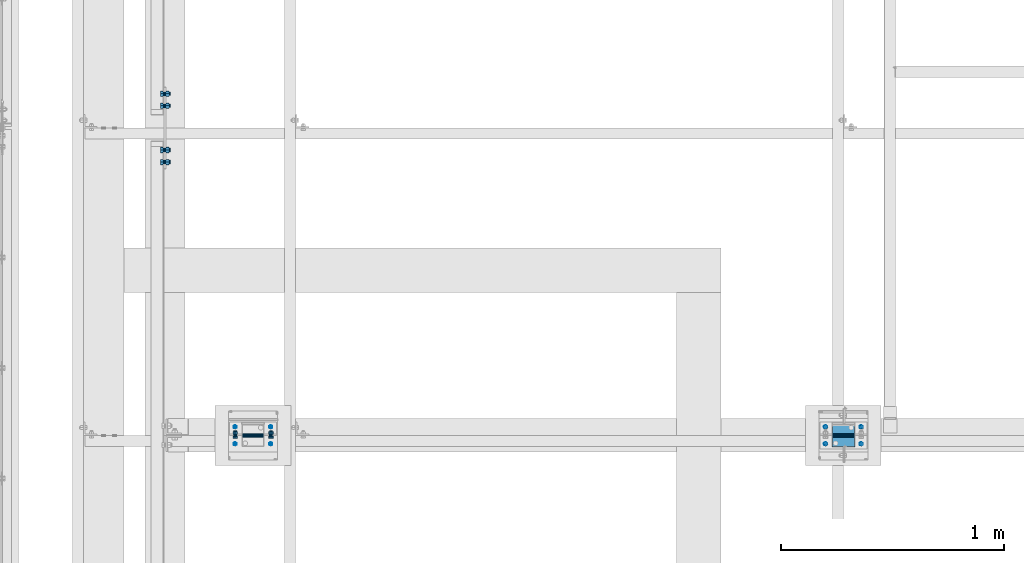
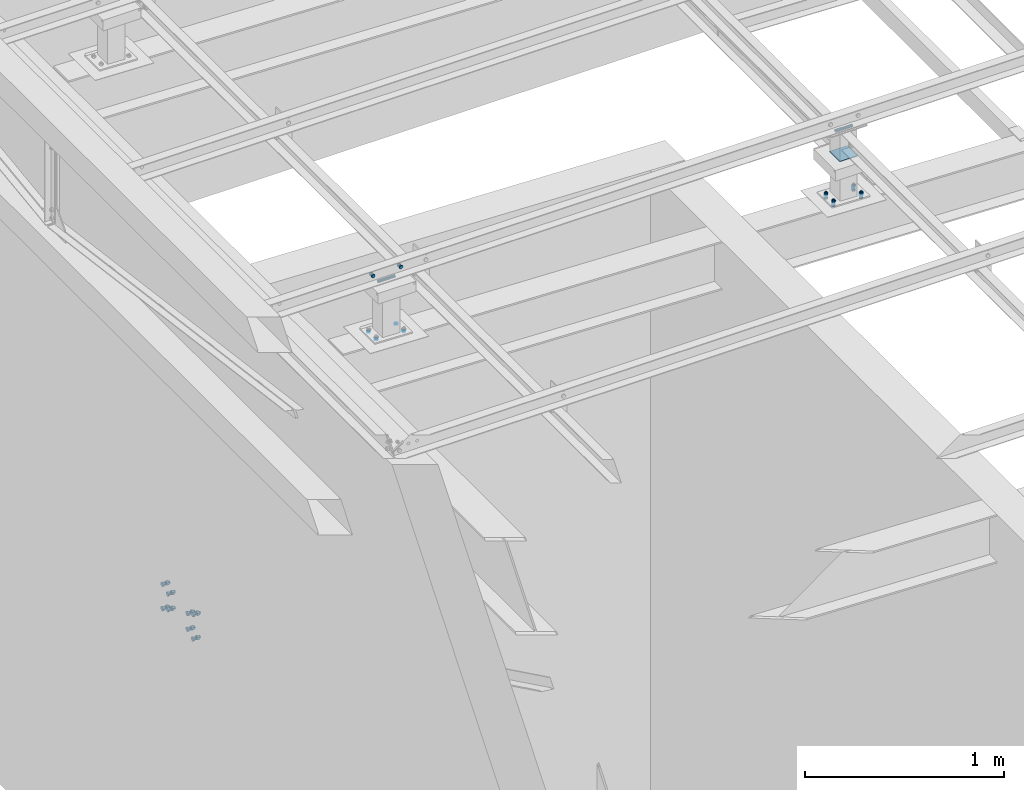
# One storey, part 186 of 3134: 11 mechanical fasteners, 8 elements without a shape of their own.
"""IFC2X3 building model written with IfcOpenShell, lengths in millimetres."""

from ifc_helpers import new_model, si_unit, frame, origin_with_axes, place, context, subcontext, project, spatial, faceted_brep, source, transform, mapped, material, type_object, element, aggregate, save


model = new_model("IFC2X3")

# Units and contexts
model_context = context("Model", 3, precision=1e-05, world=origin_with_axes())
body_context = subcontext(model_context, "Body", "Model", "MODEL_VIEW")
ifc_project = project(units=[si_unit("LENGTHUNIT", "METRE", prefix="MILLI"), si_unit("AREAUNIT", "SQUARE_METRE"), si_unit("VOLUMEUNIT", "CUBIC_METRE"), si_unit("MASSUNIT", "GRAM", prefix="KILO"), si_unit("TIMEUNIT", "SECOND"), si_unit("PLANEANGLEUNIT", "RADIAN"), si_unit("SOLIDANGLEUNIT", "STERADIAN"), si_unit("THERMODYNAMICTEMPERATUREUNIT", "DEGREE_CELSIUS"), si_unit("LUMINOUSINTENSITYUNIT", "LUMEN")], contexts=[model_context])

# Site, building, storey
site_placement = place(None, origin_with_axes())
site = spatial("IfcSite", under=ifc_project, at=site_placement, CompositionType="ELEMENT")
building_placement = place(site_placement, origin_with_axes())
building = spatial("IfcBuilding", under=site, at=building_placement, Name="Undefined", CompositionType="ELEMENT")
storey_placement = place(building_placement, origin_with_axes())
storey = spatial("IfcBuildingStorey", under=building, at=storey_placement, Name="Undefined", CompositionType="ELEMENT", Elevation=0.0)

# Assembly, mechanical fastener
assembly_1_placement = place(storey_placement, origin_with_axes())
assembly_1 = element("IfcElementAssembly", 1, at=assembly_1_placement, inside=storey, AssemblyPlace="NOTDEFINED", PredefinedType="RIGID_FRAME")
ifc_material_1 = material(Name="8.8")
mechanical_fastener_type = type_object("IfcMechanicalFastenerType", Name="Bolt assembly")
shared_shape_1 = source(origin_with_axes(), body_context, "Body", "Brep", [
    faceted_brep([(13.856406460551, -20.0, 0.0), (6.92820323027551, -20.0, 12.0), (-6.92820323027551, -20.0, 12.0), (-13.856406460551, -20.0, 1.69692038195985e-15), (-6.92820323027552, -20.0, -12.0), (6.9282032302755, -20.0, -12.0), (6.9282032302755, -10.0, -12.0), (-6.92820323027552, -10.0, -12.0), (-13.856406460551, -10.0, 1.69692038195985e-15), (-6.92820323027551, -10.0, 12.0), (6.92820323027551, -10.0, 12.0), (13.856406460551, -10.0, 0.0), (8.0, -10.0, 0.0), (6.92820323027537, -10.0, 4.00000000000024), (3.99999999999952, -10.0, 6.92820323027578), (-8.29068785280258e-13, -10.0, 8.0), (-4.00000000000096, -10.0, 6.92820323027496), (-6.9282032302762, -10.0, 3.99999999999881), (-8.0, -10.0, -1.65813757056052e-12), (-6.92820323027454, -10.0, -4.00000000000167), (-3.99999999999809, -10.0, -6.92820323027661), (2.47832457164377e-12, -10.0, -8.0), (4.00000000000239, -10.0, -6.92820323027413), (6.92820323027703, -10.0, -3.99999999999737), (6.92820323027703, 25.0, -3.99999999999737), (4.00000000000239, 25.0, -6.92820323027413), (2.47832457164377e-12, 25.0, -8.0), (-3.99999999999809, 25.0, -6.92820323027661), (-6.92820323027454, 25.0, -4.00000000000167), (-8.0, 25.0, -1.65813757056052e-12), (-6.9282032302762, 25.0, 3.99999999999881), (-4.00000000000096, 25.0, 6.92820323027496), (-8.29068785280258e-13, 25.0, 8.0), (3.99999999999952, 25.0, 6.92820323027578), (6.92820323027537, 25.0, 4.00000000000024), (8.0, 25.0, 0.0), (13.856406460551, 3.99999999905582, 0.0), (6.92820323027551, 3.99999999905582, 12.0), (-6.92820323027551, 3.99999999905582, 12.0), (-13.856406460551, 3.99999999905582, 1.69692038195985e-15), (-6.92820323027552, 3.99999999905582, -12.0), (6.9282032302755, 3.99999999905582, -12.0), (6.9282032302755, 16.9999999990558, -12.0), (-6.92820323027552, 16.9999999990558, -12.0), (-13.856406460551, 16.9999999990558, 1.69692038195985e-15), (-6.92820323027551, 16.9999999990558, 12.0), (6.92820323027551, 16.9999999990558, 12.0), (13.856406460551, 16.9999999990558, 0.0)], [[[0, 1, 2, 3, 4, 5]], [[6, 7, 8, 9, 10, 11]], [[0, 11, 10, 1]], [[1, 10, 9, 2]], [[2, 9, 8, 3]], [[3, 8, 7, 4]], [[4, 7, 6, 5]], [[5, 6, 11, 0]], [[12, 13, 14, 15, 16, 17, 18, 19, 20, 21, 22, 23]], [[24, 25, 26, 27, 28, 29, 30, 31, 32, 33, 34, 35]], [[12, 35, 34, 13]], [[13, 34, 33, 14]], [[14, 33, 32, 15]], [[15, 32, 31, 16]], [[16, 31, 30, 17]], [[17, 30, 29, 18]], [[18, 29, 28, 19]], [[19, 28, 27, 20]], [[20, 27, 26, 21]], [[21, 26, 25, 22]], [[22, 25, 24, 23]], [[23, 24, 35, 12]], [[36, 37, 38, 39, 40, 41]], [[42, 43, 44, 45, 46, 47]], [[36, 47, 46, 37]], [[37, 46, 45, 38]], [[38, 45, 44, 39]], [[39, 44, 43, 40]], [[40, 43, 42, 41]], [[41, 42, 47, 36]]]),
    faceted_brep([(9.0, -4.10000000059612, 0.0), (7.79422863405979, -4.10000000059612, 4.50000000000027), (4.49999999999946, -4.10000000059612, 7.79422863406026), (-9.3270238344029e-13, -4.10000000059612, 9.0), (-4.50000000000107, -4.10000000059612, 7.79422863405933), (-7.79422863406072, -4.10000000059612, 4.49999999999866), (-9.0, -4.10000000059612, -1.86540476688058e-12), (-7.79422863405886, -4.10000000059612, -4.50000000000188), (-4.49999999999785, -4.10000000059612, -7.79422863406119), (2.78811514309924e-12, -4.10000000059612, -9.0), (4.50000000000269, -4.10000000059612, -7.7942286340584), (7.79422863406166, -4.10000000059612, -4.49999999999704), (7.79422863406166, 4.00000375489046, -4.49999999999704), (4.50000000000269, 4.00000375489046, -7.7942286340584), (2.78811514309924e-12, 4.00000375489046, -9.0), (-4.49999999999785, 4.00000375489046, -7.79422863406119), (-7.79422863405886, 4.00000375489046, -4.50000000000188), (-9.0, 4.00000375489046, -1.86540476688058e-12), (-7.79422863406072, 4.00000375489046, 4.49999999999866), (-4.50000000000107, 4.00000375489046, 7.79422863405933), (-9.3270238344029e-13, 4.00000375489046, 9.0), (4.49999999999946, 4.00000375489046, 7.79422863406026), (7.79422863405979, 4.00000375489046, 4.50000000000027), (9.0, 4.00000375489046, 0.0), (9.0, -9.89999997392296, 0.0), (7.79422863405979, -9.89999997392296, 4.50000000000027), (4.49999999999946, -9.89999997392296, 7.79422863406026), (-9.3270238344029e-13, -9.89999997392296, 9.0), (-4.50000000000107, -9.89999997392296, 7.79422863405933), (-7.79422863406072, -9.89999997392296, 4.49999999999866), (-9.0, -9.89999997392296, -1.86540476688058e-12), (-7.79422863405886, -9.89999997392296, -4.50000000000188), (-4.49999999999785, -9.89999997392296, -7.79422863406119), (2.78811514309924e-12, -9.89999997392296, -9.0), (4.50000000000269, -9.89999997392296, -7.7942286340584), (7.79422863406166, -9.89999997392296, -4.49999999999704), (7.79422863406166, -3.9, -4.49999999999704), (4.50000000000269, -3.9, -7.7942286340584), (2.78811514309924e-12, -3.9, -9.0), (-4.49999999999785, -3.9, -7.79422863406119), (-7.79422863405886, -3.9, -4.50000000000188), (-9.0, -3.9, -1.86540476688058e-12), (-7.79422863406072, -3.9, 4.49999999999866), (-4.50000000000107, -3.9, 7.79422863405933), (-9.3270238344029e-13, -3.9, 9.0), (4.49999999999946, -3.9, 7.79422863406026), (7.79422863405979, -3.9, 4.50000000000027), (9.0, -3.9, 0.0)], [[[0, 1, 2, 3, 4, 5, 6, 7, 8, 9, 10, 11]], [[12, 13, 14, 15, 16, 17, 18, 19, 20, 21, 22, 23]], [[0, 23, 22, 1]], [[1, 22, 21, 2]], [[2, 21, 20, 3]], [[3, 20, 19, 4]], [[4, 19, 18, 5]], [[5, 18, 17, 6]], [[6, 17, 16, 7]], [[7, 16, 15, 8]], [[8, 15, 14, 9]], [[9, 14, 13, 10]], [[10, 13, 12, 11]], [[11, 12, 23, 0]], [[24, 25, 26, 27, 28, 29, 30, 31, 32, 33, 34, 35]], [[36, 37, 38, 39, 40, 41, 42, 43, 44, 45, 46, 47]], [[24, 47, 46, 25]], [[25, 46, 45, 26]], [[26, 45, 44, 27]], [[27, 44, 43, 28]], [[28, 43, 42, 29]], [[29, 42, 41, 30]], [[30, 41, 40, 31]], [[31, 40, 39, 32]], [[32, 39, 38, 33]], [[33, 38, 37, 34]], [[34, 37, 36, 35]], [[35, 36, 47, 24]]]),
])
mechanical_fastener_1_placement = place(assembly_1_placement, frame((0.0, 44288.6515411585, 1571.74047053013), z_axis=(0.0, -0.438723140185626, 0.898622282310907), x_axis=(0.0, -0.898622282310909, -0.438723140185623)))
mechanical_fastener_1 = element("IfcMechanicalFastener", 2, at=mechanical_fastener_1_placement, type_object=mechanical_fastener_type, material=ifc_material_1, Name="Bolt assembly", NominalDiameter=16.0, NominalLength=35.0, context=body_context, shape_type="MappedRepresentation", body=[
    mapped(shared_shape_1, transform((0.0, 0.0, 0.0))),
    mapped(shared_shape_1, transform((59.9999999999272, 0.0, 5.40239852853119e-10))),
])
aggregate(assembly_1, [mechanical_fastener_1])

assembly_2_placement = place(storey_placement, origin_with_axes())
assembly_2 = element("IfcElementAssembly", 3, at=assembly_2_placement, inside=storey, AssemblyPlace="NOTDEFINED", PredefinedType="RIGID_FRAME")
mechanical_fastener_2_placement = place(assembly_2_placement, frame((0.0, 44288.6515567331, 1668.25956137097), z_axis=(0.0, 0.438723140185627, 0.898622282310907), x_axis=(0.0, -0.898622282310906, 0.438723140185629)))
mechanical_fastener_2 = element("IfcMechanicalFastener", 4, at=mechanical_fastener_2_placement, type_object=mechanical_fastener_type, material=ifc_material_1, Name="Bolt assembly", NominalDiameter=16.0, NominalLength=35.0, context=body_context, shape_type="MappedRepresentation", body=[
    mapped(shared_shape_1, transform((0.0, 0.0, 0.0))),
    mapped(shared_shape_1, transform((59.9999999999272, 0.0, 5.40239852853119e-10))),
])
aggregate(assembly_2, [mechanical_fastener_2])

assembly_3_placement = place(storey_placement, origin_with_axes())
assembly_3 = element("IfcElementAssembly", 5, at=assembly_3_placement, inside=storey, AssemblyPlace="NOTDEFINED", PredefinedType="RIGID_FRAME")
mechanical_fastener_3_placement = place(assembly_3_placement, frame((0.0, 44540.2661591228, 1545.41690472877), z_axis=(0.0, 0.438723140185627, 0.898622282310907), x_axis=(0.0, -0.898622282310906, 0.438723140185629)))
mechanical_fastener_3 = element("IfcMechanicalFastener", 6, at=mechanical_fastener_3_placement, type_object=mechanical_fastener_type, material=ifc_material_1, Name="Bolt assembly", NominalDiameter=16.0, NominalLength=35.0, context=body_context, shape_type="MappedRepresentation", body=[
    mapped(shared_shape_1, transform((0.0, 0.0, 0.0))),
    mapped(shared_shape_1, transform((59.9999999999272, 0.0, 5.40239852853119e-10))),
])
aggregate(assembly_3, [mechanical_fastener_3])

assembly_4_placement = place(storey_placement, origin_with_axes())
assembly_4 = element("IfcElementAssembly", 7, at=assembly_4_placement, inside=storey, AssemblyPlace="NOTDEFINED", PredefinedType="RIGID_FRAME")
mechanical_fastener_4_placement = place(assembly_4_placement, frame((0.0, 44540.2661435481, 1694.58312717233), z_axis=(0.0, -0.438723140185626, 0.898622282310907), x_axis=(0.0, -0.898622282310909, -0.438723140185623)))
mechanical_fastener_4 = element("IfcMechanicalFastener", 8, at=mechanical_fastener_4_placement, type_object=mechanical_fastener_type, material=ifc_material_1, Name="Bolt assembly", NominalDiameter=16.0, NominalLength=35.0, context=body_context, shape_type="MappedRepresentation", body=[
    mapped(shared_shape_1, transform((0.0, 0.0, 0.0))),
    mapped(shared_shape_1, transform((59.9999999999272, 0.0, 5.40239852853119e-10))),
])
aggregate(assembly_4, [mechanical_fastener_4])

assembly_5_placement = place(storey_placement, origin_with_axes())
assembly_5 = element("IfcElementAssembly", 9, at=assembly_5_placement, inside=storey, AssemblyPlace="NOTDEFINED", PredefinedType="RIGID_FRAME")
shared_shape_2 = source(origin_with_axes(), body_context, "Body", "Brep", [
    faceted_brep([(10.9696551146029, -4.1972538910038, 0.0), (5.48482755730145, -4.1972538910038, 9.5), (-5.48482755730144, -4.1972538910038, 9.5), (-10.9696551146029, -4.1972538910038, 1.34339530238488e-15), (-5.48482755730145, -4.1972538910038, -9.5), (5.48482755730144, -4.1972538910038, -9.50000000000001), (5.48482755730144, 3.8027461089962, -9.50000000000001), (-5.48482755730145, 3.8027461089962, -9.5), (-10.9696551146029, 3.8027461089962, 1.34339530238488e-15), (-5.48482755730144, 3.8027461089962, 9.5), (5.48482755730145, 3.8027461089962, 9.5), (10.9696551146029, 3.8027461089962, 0.0), (6.0, 3.8027461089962, 0.0), (5.19615242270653, 3.8027461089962, 3.00000000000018), (2.99999999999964, 3.8027461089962, 5.19615242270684), (-6.21801588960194e-13, 3.8027461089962, 6.0), (-3.00000000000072, 3.8027461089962, 5.19615242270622), (-5.19615242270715, 3.8027461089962, 2.9999999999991), (-6.0, 3.8027461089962, -1.24360317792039e-12), (-5.19615242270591, 3.8027461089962, -3.00000000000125), (-2.99999999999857, 3.8027461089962, -5.19615242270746), (1.85874342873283e-12, 3.8027461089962, -6.0), (3.00000000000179, 3.8027461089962, -5.1961524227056), (5.19615242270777, 3.8027461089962, -2.99999999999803), (5.19615242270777, 38.8027461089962, -2.99999999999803), (3.00000000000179, 38.8027461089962, -5.1961524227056), (1.85874342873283e-12, 38.8027461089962, -6.0), (-2.99999999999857, 38.8027461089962, -5.19615242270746), (-5.19615242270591, 38.8027461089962, -3.00000000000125), (-6.0, 38.8027461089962, -1.24360317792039e-12), (-5.19615242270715, 38.8027461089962, 2.9999999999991), (-3.00000000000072, 38.8027461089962, 5.19615242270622), (-6.21801588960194e-13, 38.8027461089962, 6.0), (2.99999999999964, 38.8027461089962, 5.19615242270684), (5.19615242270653, 38.8027461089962, 3.00000000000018), (6.0, 38.8027461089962, 0.0), (10.9696551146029, 23.0139082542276, 0.0), (5.48482755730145, 23.0139082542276, 9.5), (-5.48482755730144, 23.0139082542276, 9.5), (-10.9696551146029, 23.0139082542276, 1.34339530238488e-15), (-5.48482755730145, 23.0139082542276, -9.5), (5.48482755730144, 23.0139082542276, -9.50000000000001), (5.48482755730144, 33.0139082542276, -9.50000000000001), (-5.48482755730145, 33.0139082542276, -9.5), (-10.9696551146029, 33.0139082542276, 1.34339530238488e-15), (-5.48482755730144, 33.0139082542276, 9.5), (5.48482755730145, 33.0139082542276, 9.5), (10.9696551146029, 33.0139082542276, 0.0)], [[[0, 1, 2, 3, 4, 5]], [[6, 7, 8, 9, 10, 11]], [[0, 11, 10, 1]], [[1, 10, 9, 2]], [[2, 9, 8, 3]], [[3, 8, 7, 4]], [[4, 7, 6, 5]], [[5, 6, 11, 0]], [[12, 13, 14, 15, 16, 17, 18, 19, 20, 21, 22, 23]], [[24, 25, 26, 27, 28, 29, 30, 31, 32, 33, 34, 35]], [[12, 35, 34, 13]], [[13, 34, 33, 14]], [[14, 33, 32, 15]], [[15, 32, 31, 16]], [[16, 31, 30, 17]], [[17, 30, 29, 18]], [[18, 29, 28, 19]], [[19, 28, 27, 20]], [[20, 27, 26, 21]], [[21, 26, 25, 22]], [[22, 25, 24, 23]], [[23, 24, 35, 12]], [[36, 37, 38, 39, 40, 41]], [[42, 43, 44, 45, 46, 47]], [[36, 47, 46, 37]], [[37, 46, 45, 38]], [[38, 45, 44, 39]], [[39, 44, 43, 40]], [[40, 43, 42, 41]], [[41, 42, 47, 36]]]),
    faceted_brep([(7.0, 3.9027461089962, 0.0), (6.06217782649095, 3.9027461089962, 3.50000000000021), (3.49999999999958, 3.9027461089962, 6.06217782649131), (-7.25435187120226e-13, 3.9027461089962, 7.0), (-3.50000000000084, 3.9027461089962, 6.06217782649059), (-6.06217782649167, 3.9027461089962, 3.49999999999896), (-7.0, 3.9027461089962, -1.45087037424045e-12), (-6.06217782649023, 3.9027461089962, -3.50000000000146), (-3.49999999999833, 3.9027461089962, -6.06217782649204), (2.1685340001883e-12, 3.9027461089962, -7.0), (3.50000000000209, 3.9027461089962, -6.06217782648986), (6.0621778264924, 3.9027461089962, -3.4999999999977), (6.0621778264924, 13.1027459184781, -3.4999999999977), (3.50000000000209, 13.1027459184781, -6.06217782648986), (2.1685340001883e-12, 13.1027459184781, -7.0), (-3.49999999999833, 13.1027459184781, -6.06217782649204), (-6.06217782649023, 13.1027459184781, -3.50000000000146), (-7.0, 13.1027459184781, -1.45087037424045e-12), (-6.06217782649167, 13.1027459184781, 3.49999999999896), (-3.50000000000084, 13.1027459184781, 6.06217782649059), (-7.25435187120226e-13, 13.1027459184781, 7.0), (3.49999999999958, 13.1027459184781, 6.06217782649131), (6.06217782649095, 13.1027459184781, 3.50000000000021), (7.0, 13.1027459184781, 0.0), (7.0, 14.9139082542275, 0.0), (6.06217782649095, 14.9139082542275, 3.50000000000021), (3.49999999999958, 14.9139082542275, 6.06217782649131), (-7.25435187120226e-13, 14.9139082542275, 7.0), (-3.50000000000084, 14.9139082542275, 6.06217782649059), (-6.06217782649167, 14.9139082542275, 3.49999999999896), (-7.0, 14.9139082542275, -1.45087037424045e-12), (-6.06217782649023, 14.9139082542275, -3.50000000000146), (-3.49999999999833, 14.9139082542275, -6.06217782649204), (2.1685340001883e-12, 14.9139082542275, -7.0), (3.50000000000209, 14.9139082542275, -6.06217782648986), (6.0621778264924, 14.9139082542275, -3.4999999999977), (6.0621778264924, 23.0139082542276, -3.4999999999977), (3.50000000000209, 23.0139082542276, -6.06217782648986), (2.1685340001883e-12, 23.0139082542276, -7.0), (-3.49999999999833, 23.0139082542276, -6.06217782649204), (-6.06217782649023, 23.0139082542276, -3.50000000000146), (-7.0, 23.0139082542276, -1.45087037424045e-12), (-6.06217782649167, 23.0139082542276, 3.49999999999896), (-3.50000000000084, 23.0139082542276, 6.06217782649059), (-7.25435187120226e-13, 23.0139082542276, 7.0), (3.49999999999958, 23.0139082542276, 6.06217782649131), (6.06217782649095, 23.0139082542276, 3.50000000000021), (7.0, 23.0139082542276, 0.0)], [[[0, 1, 2, 3, 4, 5, 6, 7, 8, 9, 10, 11]], [[12, 13, 14, 15, 16, 17, 18, 19, 20, 21, 22, 23]], [[0, 23, 22, 1]], [[1, 22, 21, 2]], [[2, 21, 20, 3]], [[3, 20, 19, 4]], [[4, 19, 18, 5]], [[5, 18, 17, 6]], [[6, 17, 16, 7]], [[7, 16, 15, 8]], [[8, 15, 14, 9]], [[9, 14, 13, 10]], [[10, 13, 12, 11]], [[11, 12, 23, 0]], [[24, 25, 26, 27, 28, 29, 30, 31, 32, 33, 34, 35]], [[36, 37, 38, 39, 40, 41, 42, 43, 44, 45, 46, 47]], [[24, 47, 46, 25]], [[25, 46, 45, 26]], [[26, 45, 44, 27]], [[27, 44, 43, 28]], [[28, 43, 42, 29]], [[29, 42, 41, 30]], [[30, 41, 40, 31]], [[31, 40, 39, 32]], [[32, 39, 38, 33]], [[33, 38, 37, 34]], [[34, 37, 36, 35]], [[35, 36, 47, 24]]]),
])
mechanical_fastener_5_placement = place(assembly_5_placement, frame((3042.5231765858, 43046.3299999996, 3920.50000668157), z_axis=(-0.999387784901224, 0.0, 0.0349865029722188), x_axis=(0.0, -1.0, 0.0)))
mechanical_fastener_5 = element("IfcMechanicalFastener", 10, at=mechanical_fastener_5_placement, type_object=mechanical_fastener_type, material=ifc_material_1, Name="Bolt assembly", NominalDiameter=12.0, NominalLength=35.0, context=body_context, shape_type="MappedRepresentation", body=[
    mapped(shared_shape_2, transform((0.0, -5.32963895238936e-10, -79.9999999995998))),
    mapped(shared_shape_2, transform((76.0, -5.32963895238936e-10, -79.9999999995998))),
    mapped(shared_shape_2, transform((0.0, 5.3114490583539e-10, 79.9999999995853))),
    mapped(shared_shape_2, transform((76.0, 5.3114490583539e-10, 79.9999999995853))),
])

assembly_6_placement = place(storey_placement, origin_with_axes())
assembly_6 = element("IfcElementAssembly", 11, at=assembly_6_placement, inside=storey, AssemblyPlace="NOTDEFINED", PredefinedType="RIGID_FRAME")
shared_shape_3 = source(origin_with_axes(), body_context, "Body", "Brep", [
    faceted_brep([(7.0, 13.0000253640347, 0.0), (6.06217782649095, 13.0000253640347, 3.50000000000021), (3.49999999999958, 13.0000253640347, 6.06217782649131), (-7.25435187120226e-13, 13.0000253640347, 7.0), (-3.50000000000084, 13.0000253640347, 6.06217782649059), (-6.06217782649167, 13.0000253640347, 3.49999999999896), (-7.0, 13.0000253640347, -1.45087037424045e-12), (-6.06217782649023, 13.0000253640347, -3.50000000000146), (-3.49999999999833, 13.0000253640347, -6.06217782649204), (2.1685340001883e-12, 13.0000253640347, -7.0), (3.50000000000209, 13.0000253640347, -6.06217782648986), (6.0621778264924, 13.0000253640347, -3.4999999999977), (6.0621778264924, 15.0999999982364, -3.4999999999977), (3.50000000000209, 15.0999999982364, -6.06217782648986), (2.1685340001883e-12, 15.0999999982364, -7.0), (-3.49999999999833, 15.0999999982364, -6.06217782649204), (-6.06217782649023, 15.0999999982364, -3.50000000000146), (-7.0, 15.0999999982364, -1.45087037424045e-12), (-6.06217782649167, 15.0999999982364, 3.49999999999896), (-3.50000000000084, 15.0999999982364, 6.06217782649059), (-7.25435187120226e-13, 15.0999999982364, 7.0), (3.49999999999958, 15.0999999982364, 6.06217782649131), (6.06217782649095, 15.0999999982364, 3.50000000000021), (7.0, 15.0999999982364, 0.0)], [[[0, 1, 2, 3, 4, 5, 6, 7, 8, 9, 10, 11]], [[12, 13, 14, 15, 16, 17, 18, 19, 20, 21, 22, 23]], [[0, 23, 22, 1]], [[1, 22, 21, 2]], [[2, 21, 20, 3]], [[3, 20, 19, 4]], [[4, 19, 18, 5]], [[5, 18, 17, 6]], [[6, 17, 16, 7]], [[7, 16, 15, 8]], [[8, 15, 14, 9]], [[9, 14, 13, 10]], [[10, 13, 12, 11]], [[11, 12, 23, 0]]]),
])
mechanical_fastener_6_placement = place(assembly_6_placement, frame((3042.5231765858, 43046.3299999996, 3920.50000668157), z_axis=(-0.999387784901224, 0.0, 0.0349865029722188), x_axis=(0.0, -1.0, 0.0)))
mechanical_fastener_6 = element("IfcMechanicalFastener", 12, at=mechanical_fastener_6_placement, type_object=mechanical_fastener_type, material=ifc_material_1, Name="Bolt assembly", NominalDiameter=12.0, NominalLength=2.0, context=body_context, shape_type="MappedRepresentation", body=[
    mapped(shared_shape_3, transform((0.0, -5.32963895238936e-10, -79.9999999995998))),
    mapped(shared_shape_3, transform((76.0, -5.32963895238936e-10, -79.9999999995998))),
    mapped(shared_shape_3, transform((0.0, 5.3114490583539e-10, 79.9999999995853))),
    mapped(shared_shape_3, transform((76.0, 5.3114490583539e-10, 79.9999999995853))),
])
aggregate(assembly_6, [mechanical_fastener_6])

assembly_7_placement = place(storey_placement, origin_with_axes())
assembly_7 = element("IfcElementAssembly", 13, at=assembly_7_placement, inside=storey, AssemblyPlace="NOTDEFINED", PredefinedType="RIGID_FRAME")
mechanical_fastener_7_placement = place(assembly_7_placement, frame((394.193176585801, 43046.3299999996, 4013.19000668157), z_axis=(-0.999387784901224, 0.0, 0.0349865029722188), x_axis=(0.0, -1.0, 0.0)))
mechanical_fastener_7 = element("IfcMechanicalFastener", 14, at=mechanical_fastener_7_placement, type_object=mechanical_fastener_type, material=ifc_material_1, Name="Bolt assembly", NominalDiameter=12.0, NominalLength=2.0, context=body_context, shape_type="MappedRepresentation", body=[
    mapped(shared_shape_3, transform((0.0, -5.32963895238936e-10, -79.9999999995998))),
    mapped(shared_shape_3, transform((76.0, -5.32963895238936e-10, -79.9999999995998))),
    mapped(shared_shape_3, transform((0.0, 5.3114490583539e-10, 79.9999999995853))),
    mapped(shared_shape_3, transform((76.0, 5.3114490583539e-10, 79.9999999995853))),
])
aggregate(assembly_7, [mechanical_fastener_7])

assembly_8_placement = place(storey_placement, origin_with_axes())
assembly_8 = element("IfcElementAssembly", 15, at=assembly_8_placement, inside=storey, AssemblyPlace="NOTDEFINED", PredefinedType="RIGID_FRAME")
shared_shape_4 = source(origin_with_axes(), body_context, "Body", "Brep", [
    faceted_brep([(9.0, -50.0, 0.0), (7.79422863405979, -50.0, 4.50000000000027), (4.49999999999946, -50.0, 7.79422863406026), (-9.3270238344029e-13, -50.0, 9.0), (-4.50000000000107, -50.0, 7.79422863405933), (-7.79422863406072, -50.0, 4.49999999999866), (-9.0, -50.0, -1.86540476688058e-12), (-7.79422863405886, -50.0, -4.50000000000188), (-4.49999999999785, -50.0, -7.79422863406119), (2.78811514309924e-12, -50.0, -9.0), (4.50000000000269, -50.0, -7.7942286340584), (7.79422863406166, -50.0, -4.49999999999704), (7.79422863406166, 50.1, -4.49999999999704), (4.50000000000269, 50.1, -7.7942286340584), (2.78811514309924e-12, 50.1, -9.0), (-4.49999999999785, 50.1, -7.79422863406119), (-7.79422863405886, 50.1, -4.50000000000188), (-9.0, 50.1, -1.86540476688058e-12), (-7.79422863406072, 50.1, 4.49999999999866), (-4.50000000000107, 50.1, 7.79422863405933), (-9.3270238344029e-13, 50.1, 9.0), (4.49999999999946, 50.1, 7.79422863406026), (7.79422863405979, 50.1, 4.50000000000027), (9.0, 50.1, 0.0)], [[[0, 1, 2, 3, 4, 5, 6, 7, 8, 9, 10, 11]], [[12, 13, 14, 15, 16, 17, 18, 19, 20, 21, 22, 23]], [[0, 23, 22, 1]], [[1, 22, 21, 2]], [[2, 21, 20, 3]], [[3, 20, 19, 4]], [[4, 19, 18, 5]], [[5, 18, 17, 6]], [[6, 17, 16, 7]], [[7, 16, 15, 8]], [[8, 15, 14, 9]], [[9, 14, 13, 10]], [[10, 13, 12, 11]], [[11, 12, 23, 0]]]),
])
mechanical_fastener_8_placement = place(assembly_8_placement, frame((395.0, 43008.33, 4351.0), z_axis=(0.0, 1.0, 0.0), x_axis=(0.0, 0.0, 1.0)))
mechanical_fastener_8 = element("IfcMechanicalFastener", 16, at=mechanical_fastener_8_placement, type_object=mechanical_fastener_type, material=ifc_material_1, Name="Bolt assembly", NominalDiameter=16.0, NominalLength=100.0, context=body_context, shape_type="MappedRepresentation", body=[
    mapped(shared_shape_4, transform((0.0, 0.0, 0.0))),
])

# Mechanical fastener
mechanical_fastener_9_placement = place(assembly_5_placement, frame((3043.33, 43008.33, 4345.0), z_axis=(0.0, 1.0, 0.0), x_axis=(0.0, 0.0, 1.0)))
mechanical_fastener_9 = element("IfcMechanicalFastener", 17, at=mechanical_fastener_9_placement, type_object=mechanical_fastener_type, material=ifc_material_1, Name="Bolt assembly", NominalDiameter=16.0, NominalLength=100.0, context=body_context, shape_type="MappedRepresentation", body=[
    mapped(shared_shape_4, transform((0.0, 0.0, 0.0))),
])

ifc_material_2 = material(Name="6.8")
shared_shape_5 = source(origin_with_axes(), body_context, "Body", "Brep", [
    faceted_brep([(51.5, 1.36424205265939e-12, 50.0), (51.3858192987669, 1.36424205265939e-12, 50.5740251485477), (51.0606601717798, 1.36424205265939e-12, 51.0606601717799), (50.5740251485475, 1.36424205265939e-12, 51.385819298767), (-50.0000000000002, 1.36424205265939e-12, 51.5), (-50.7500000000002, 1.36424205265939e-12, 51.2990381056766), (-51.2990381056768, 1.36424205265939e-12, 50.7499999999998), (-51.5, 1.36424205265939e-12, 49.9999999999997), (-51.5, 1.36424205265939e-12, -50.0000000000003), (-51.2990381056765, 1.36424205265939e-12, -50.7500000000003), (-50.7499999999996, 1.36424205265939e-12, -51.2990381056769), (-49.9999999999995, 1.36424205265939e-12, -51.5), (50.0000000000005, 1.36424205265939e-12, -51.5), (50.7500000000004, 1.36424205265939e-12, -51.2990381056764), (51.2990381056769, 1.36424205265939e-12, -50.7499999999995), (51.5, 1.36424205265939e-12, -49.9999999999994), (51.5, 5.10000000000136, -49.9999999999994), (51.2990381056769, 5.10000000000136, -50.7499999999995), (50.7500000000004, 5.10000000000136, -51.2990381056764), (50.0000000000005, 5.10000000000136, -51.5), (-49.9999999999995, 5.10000000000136, -51.5), (-50.7499999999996, 5.10000000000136, -51.2990381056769), (-51.2990381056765, 5.10000000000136, -50.7500000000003), (-51.5, 5.10000000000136, -50.0000000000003), (-51.5, 5.10000000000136, 49.9999999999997), (-51.2990381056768, 5.10000000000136, 50.7499999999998), (-50.7500000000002, 5.10000000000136, 51.2990381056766), (-50.0000000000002, 5.10000000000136, 51.5), (50.5740251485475, 5.10000000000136, 51.385819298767), (51.0606601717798, 5.10000000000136, 51.0606601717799), (51.3858192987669, 5.10000000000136, 50.5740251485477), (51.5, 5.10000000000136, 50.0)], [[[0, 1, 2, 3, 4, 5, 6, 7, 8, 9, 10, 11, 12, 13, 14, 15]], [[16, 17, 18, 19, 20, 21, 22, 23, 24, 25, 26, 27, 28, 29, 30, 31]], [[0, 31, 30, 1]], [[1, 30, 29, 2]], [[2, 29, 28, 3]], [[3, 28, 27, 4]], [[4, 27, 26, 5]], [[5, 26, 25, 6]], [[6, 25, 24, 7]], [[7, 24, 23, 8]], [[8, 23, 22, 9]], [[9, 22, 21, 10]], [[10, 21, 20, 11]], [[11, 20, 19, 12]], [[12, 19, 18, 13]], [[13, 18, 17, 14]], [[14, 17, 16, 15]], [[15, 16, 31, 0]]]),
])
mechanical_fastener_10_placement = place(assembly_5_placement, frame((3043.33, 43008.33, 4190.29), z_axis=(0.0, -1.0, 0.0), x_axis=(-1.0, 0.0, 0.0)))
mechanical_fastener_10 = element("IfcMechanicalFastener", 18, at=mechanical_fastener_10_placement, type_object=mechanical_fastener_type, material=ifc_material_2, Name="Bolt assembly", NominalDiameter=10.0, NominalLength=5.0, context=body_context, shape_type="MappedRepresentation", body=[
    mapped(shared_shape_5, transform((0.0, 0.0, 0.0))),
])

aggregate(assembly_5, [mechanical_fastener_5, mechanical_fastener_10, mechanical_fastener_9])

shared_shape_6 = source(origin_with_axes(), body_context, "Body", "Brep", [
    faceted_brep([(10.9696551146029, -12.0, 0.0), (5.48482755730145, -12.0, 9.5), (-5.48482755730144, -12.0, 9.5), (-10.9696551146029, -12.0, 1.34339530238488e-15), (-5.48482755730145, -12.0, -9.5), (5.48482755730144, -12.0, -9.50000000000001), (5.48482755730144, -4.0, -9.50000000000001), (-5.48482755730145, -4.0, -9.5), (-10.9696551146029, -4.0, 1.34339530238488e-15), (-5.48482755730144, -4.0, 9.5), (5.48482755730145, -4.0, 9.5), (10.9696551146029, -4.0, 0.0), (6.0, -4.0, 0.0), (5.19615242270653, -4.0, 3.00000000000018), (2.99999999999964, -4.0, 5.19615242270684), (-6.21801588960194e-13, -4.0, 6.0), (-3.00000000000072, -4.0, 5.19615242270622), (-5.19615242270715, -4.0, 2.9999999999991), (-6.0, -4.0, -1.24360317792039e-12), (-5.19615242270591, -4.0, -3.00000000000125), (-2.99999999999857, -4.0, -5.19615242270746), (1.85874342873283e-12, -4.0, -6.0), (3.00000000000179, -4.0, -5.1961524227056), (5.19615242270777, -4.0, -2.99999999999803), (5.19615242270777, 21.0, -2.99999999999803), (3.00000000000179, 21.0, -5.1961524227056), (1.85874342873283e-12, 21.0, -6.0), (-2.99999999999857, 21.0, -5.19615242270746), (-5.19615242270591, 21.0, -3.00000000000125), (-6.0, 21.0, -1.24360317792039e-12), (-5.19615242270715, 21.0, 2.9999999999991), (-3.00000000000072, 21.0, 5.19615242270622), (-6.21801588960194e-13, 21.0, 6.0), (2.99999999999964, 21.0, 5.19615242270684), (5.19615242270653, 21.0, 3.00000000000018), (6.0, 21.0, 0.0), (10.9696551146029, 6.00000000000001, 0.0), (5.48482755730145, 6.00000000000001, 9.5), (-5.48482755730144, 6.00000000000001, 9.5), (-10.9696551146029, 6.00000000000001, 1.34339530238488e-15), (-5.48482755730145, 6.00000000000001, -9.5), (5.48482755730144, 6.00000000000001, -9.50000000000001), (5.48482755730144, 16.0, -9.50000000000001), (-5.48482755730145, 16.0, -9.5), (-10.9696551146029, 16.0, 1.34339530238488e-15), (-5.48482755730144, 16.0, 9.5), (5.48482755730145, 16.0, 9.5), (10.9696551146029, 16.0, 0.0)], [[[0, 1, 2, 3, 4, 5]], [[6, 7, 8, 9, 10, 11]], [[0, 11, 10, 1]], [[1, 10, 9, 2]], [[2, 9, 8, 3]], [[3, 8, 7, 4]], [[4, 7, 6, 5]], [[5, 6, 11, 0]], [[12, 13, 14, 15, 16, 17, 18, 19, 20, 21, 22, 23]], [[24, 25, 26, 27, 28, 29, 30, 31, 32, 33, 34, 35]], [[12, 35, 34, 13]], [[13, 34, 33, 14]], [[14, 33, 32, 15]], [[15, 32, 31, 16]], [[16, 31, 30, 17]], [[17, 30, 29, 18]], [[18, 29, 28, 19]], [[19, 28, 27, 20]], [[20, 27, 26, 21]], [[21, 26, 25, 22]], [[22, 25, 24, 23]], [[23, 24, 35, 12]], [[36, 37, 38, 39, 40, 41]], [[42, 43, 44, 45, 46, 47]], [[36, 47, 46, 37]], [[37, 46, 45, 38]], [[38, 45, 44, 39]], [[39, 44, 43, 40]], [[40, 43, 42, 41]], [[41, 42, 47, 36]]]),
    faceted_brep([(7.0, -3.9, 0.0), (6.06217782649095, -3.9, 3.50000000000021), (3.49999999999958, -3.9, 6.06217782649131), (-7.25435187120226e-13, -3.9, 7.0), (-3.50000000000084, -3.9, 6.06217782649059), (-6.06217782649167, -3.9, 3.49999999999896), (-7.0, -3.9, -1.45087037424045e-12), (-6.06217782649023, -3.9, -3.50000000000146), (-3.49999999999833, -3.9, -6.06217782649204), (2.1685340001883e-12, -3.9, -7.0), (3.50000000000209, -3.9, -6.06217782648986), (6.0621778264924, -3.9, -3.4999999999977), (6.0621778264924, 0.0999999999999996, -3.4999999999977), (3.50000000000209, 0.0999999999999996, -6.06217782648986), (2.1685340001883e-12, 0.0999999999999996, -7.0), (-3.49999999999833, 0.0999999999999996, -6.06217782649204), (-6.06217782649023, 0.0999999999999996, -3.50000000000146), (-7.0, 0.0999999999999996, -1.45087037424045e-12), (-6.06217782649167, 0.0999999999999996, 3.49999999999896), (-3.50000000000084, 0.0999999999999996, 6.06217782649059), (-7.25435187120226e-13, 0.0999999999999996, 7.0), (3.49999999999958, 0.0999999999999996, 6.06217782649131), (6.06217782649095, 0.0999999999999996, 3.50000000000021), (7.0, 0.0999999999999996, 0.0), (7.0, -0.1, 0.0), (6.06217782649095, -0.1, 3.50000000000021), (3.49999999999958, -0.1, 6.06217782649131), (-7.25435187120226e-13, -0.1, 7.0), (-3.50000000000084, -0.1, 6.06217782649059), (-6.06217782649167, -0.1, 3.49999999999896), (-7.0, -0.1, -1.45087037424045e-12), (-6.06217782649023, -0.1, -3.50000000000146), (-3.49999999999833, -0.1, -6.06217782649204), (2.1685340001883e-12, -0.1, -7.0), (3.50000000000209, -0.1, -6.06217782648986), (6.0621778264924, -0.1, -3.4999999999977), (6.0621778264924, 6.00000000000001, -3.4999999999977), (3.50000000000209, 6.00000000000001, -6.06217782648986), (2.1685340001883e-12, 6.00000000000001, -7.0), (-3.49999999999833, 6.00000000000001, -6.06217782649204), (-6.06217782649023, 6.00000000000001, -3.50000000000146), (-7.0, 6.00000000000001, -1.45087037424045e-12), (-6.06217782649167, 6.00000000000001, 3.49999999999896), (-3.50000000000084, 6.00000000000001, 6.06217782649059), (-7.25435187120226e-13, 6.00000000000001, 7.0), (3.49999999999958, 6.00000000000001, 6.06217782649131), (6.06217782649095, 6.00000000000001, 3.50000000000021), (7.0, 6.00000000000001, 0.0)], [[[0, 1, 2, 3, 4, 5, 6, 7, 8, 9, 10, 11]], [[12, 13, 14, 15, 16, 17, 18, 19, 20, 21, 22, 23]], [[0, 23, 22, 1]], [[1, 22, 21, 2]], [[2, 21, 20, 3]], [[3, 20, 19, 4]], [[4, 19, 18, 5]], [[5, 18, 17, 6]], [[6, 17, 16, 7]], [[7, 16, 15, 8]], [[8, 15, 14, 9]], [[9, 14, 13, 10]], [[10, 13, 12, 11]], [[11, 12, 23, 0]], [[24, 25, 26, 27, 28, 29, 30, 31, 32, 33, 34, 35]], [[36, 37, 38, 39, 40, 41, 42, 43, 44, 45, 46, 47]], [[24, 47, 46, 25]], [[25, 46, 45, 26]], [[26, 45, 44, 27]], [[27, 44, 43, 28]], [[28, 43, 42, 29]], [[29, 42, 41, 30]], [[30, 41, 40, 31]], [[31, 40, 39, 32]], [[32, 39, 38, 33]], [[33, 38, 37, 34]], [[34, 37, 36, 35]], [[35, 36, 47, 24]]]),
])
mechanical_fastener_11_placement = place(assembly_8_placement, frame((394.999950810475, 43008.329683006, 4400.0), z_axis=(1.0, 0.0, 0.0), x_axis=(0.0, 0.0, -1.0)))
mechanical_fastener_11 = element("IfcMechanicalFastener", 19, at=mechanical_fastener_11_placement, type_object=mechanical_fastener_type, material=ifc_material_1, Name="Bolt assembly", NominalDiameter=12.0, NominalLength=25.0, context=body_context, shape_type="MappedRepresentation", body=[
    mapped(shared_shape_6, transform((0.0, -5.32963895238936e-10, -79.9999999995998))),
    mapped(shared_shape_6, transform((0.0, 5.3114490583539e-10, 79.9999999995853))),
])

aggregate(assembly_8, [mechanical_fastener_8, mechanical_fastener_11])

save(model, "model.ifc")
